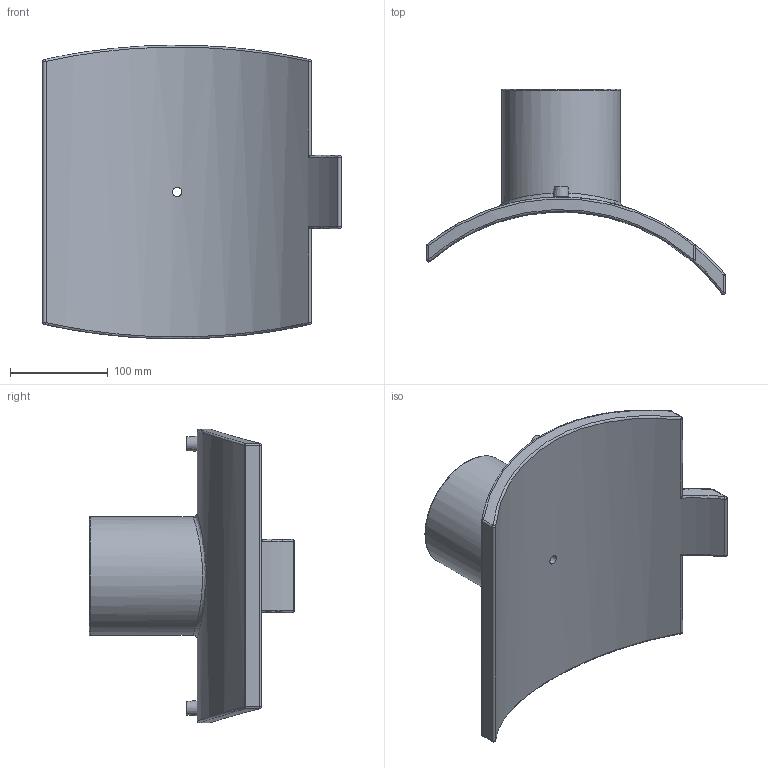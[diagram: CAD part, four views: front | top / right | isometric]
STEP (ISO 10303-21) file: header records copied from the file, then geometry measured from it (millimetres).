
FILE_DESCRIPTION(/* description */ ('PLASSON BRANCH SADDLE 10''''-16''''IPS x 10''''-14''''DIPS'),/* implementation_level */ '2;1');
FILE_NAME(/* name */ 'C:\Dropbox\KIMPROJECTS-Inventor 2019\99-16-3568-Processing Inch\ASTM ElectroFusion 2021\5958B-1\5958BD03160040.ipt.stp',/* time_stamp */ '2021-08-30T09:53:28+03:00',/* author */ ('KIM'),/* organization */ (''),/* preprocessor_version */ 'ST-DEVELOPER v17.2',/* originating_system */ 'Autodesk Inventor 2019',/* authorisation */ '');
FILE_SCHEMA (('AUTOMOTIVE_DESIGN { 1 0 10303 214 3 1 1 }'));
Length unit declared in the file: inch
Products named in the file (1): 5958BD03160040
Bounding box: 304.8 x 209.63 x 299.9 mm (x, y, z)
Volume: 1819514.5 mm3; surface area: 278612.9 mm2
Topology: 1 solids, 1 shells, 66 faces, 136 edges, 81 vertices
Faces by surface type: cylinder 27, plane 14, sphere 12, torus 6, bspline 5, cone 2
Full cylindrical faces by diameter (mm): 4 x2, 9.6 x1, 10 x2, 16 x1, 97.04 x1, 121.3 x1
Entity records: 2423 total; most frequent: CARTESIAN_POINT 989, DIRECTION 304, ORIENTED_EDGE 272, EDGE_CURVE 136, AXIS2_PLACEMENT_3D 132, VERTEX_POINT 81, EDGE_LOOP 77, CIRCLE 70
